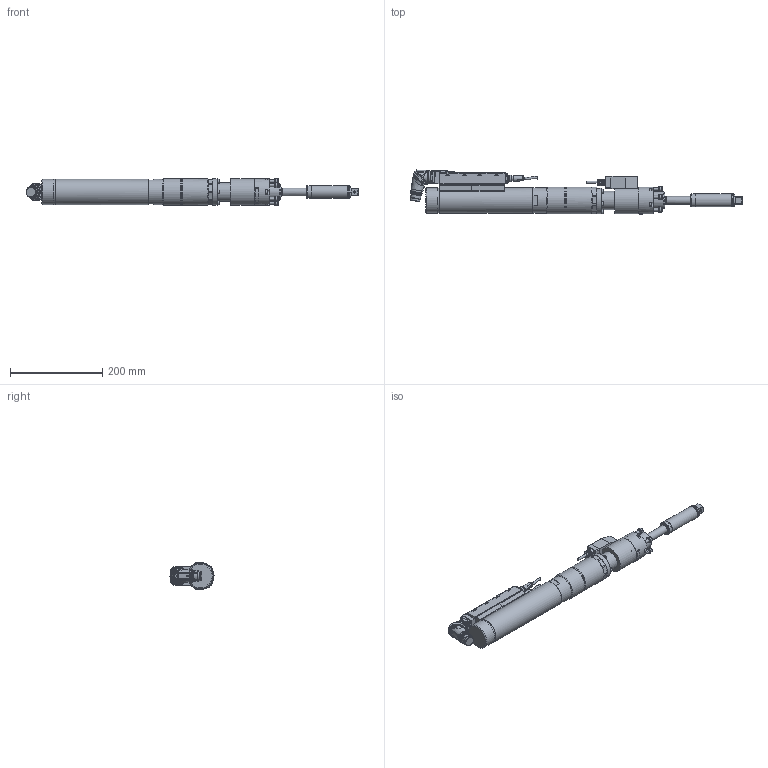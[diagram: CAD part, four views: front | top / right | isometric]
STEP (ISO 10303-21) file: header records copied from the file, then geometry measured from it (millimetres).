
FILE_DESCRIPTION (( 'STEP AP203' ), '1' );
FILE_NAME ('70082564_ESX227ZDWRX270AZX250.STEP', '2026-03-12T10:41:07', ( '' ), ( '' ), 'SwSTEP 2.0', 'SolidWorks 2020', '' );
FILE_SCHEMA (( 'CONFIG_CONTROL_DESIGN' ));
Length unit declared in the file: millimetre
Products named in the file (11): 70082564_ESX227ZDWRX270AZX250; 70057493_Standard_winkel; 70082371; 70057493_2; 7004768_3; 70057493_3; 70057493_4; 70082293_2; 70210503; 70082307; 70082307_ESX227_Standard_Winkel_2
Assembly tree (11 placements, depth 4):
  70082564_ESX227ZDWRX270AZX250
    70082307_ESX227_Standard_Winkel_2
      70082307
      70057493_Standard_winkel
        70057493_2
        70057493_3
        70057493_4
      70082293_2  x2
    70210503
    70082371
    7004768_3
Bounding box: 721.16 x 95.64 x 59.55 mm (x, y, z)
Volume: 1620209.7 mm3; surface area: 208059 mm2
Topology: 13 solids, 13 shells, 2682 faces, 6934 edges, 4492 vertices
Faces by surface type: plane 1280, cylinder 735, cone 318, bspline 269, torus 73, sphere 7
Full cylindrical faces by diameter (mm): 0.5 x14, 0.57 x14, 1.6 x3, 2 x3, 3 x4, 4.2 x11, 4.5 x1, 4.9 x4, 5 x32, 5.5 x12, 6 x7, 8.459 x2, 8.5 x10, 9 x12, 10 x5, 11.08 x2, 12 x5, 12.3 x2, 14 x4, 14.5 x2, 17.3 x1, 17.4 x1, 17.5 x1, 20 x2, 21.15 x1, 21.5 x1, 21.7 x1, 22 x1, 22.3 x1, 24 x1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
Entity records: 88362 total; most frequent: CARTESIAN_POINT 29996, ORIENTED_EDGE 12202, DIRECTION 10766, EDGE_CURVE 6101, VERTEX_POINT 4139, AXIS2_PLACEMENT_3D 4005, EDGE_LOOP 3134, FACE_OUTER_BOUND 2784
